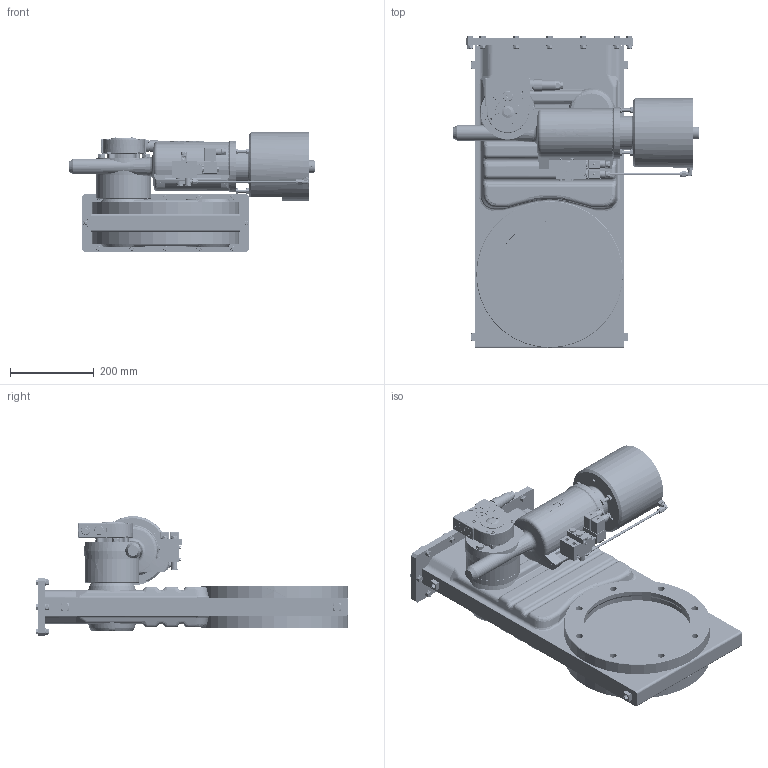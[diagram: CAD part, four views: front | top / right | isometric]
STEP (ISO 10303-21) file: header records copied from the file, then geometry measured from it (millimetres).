
FILE_DESCRIPTION(/* description */ (''),/* implementation_level */ '2;1');
FILE_NAME(/* name */ '1555510080_203.stp',/* time_stamp */ '2024-06-25T17:21:26+02:00',/* author */ (''),/* organization */ (''),/* preprocessor_version */ 'ST-DEVELOPER v19.3',/* originating_system */ 'SIEMENS PLM Software NX2212.6000',/* authorisation */ '');
FILE_SCHEMA (('AP203_CONFIGURATION_CONTROLLED_3D_DESIGN_OF_MECHANICAL_PARTS_AND_ASSEMBLIES_MIM_LF { 1 0 10303 403 2 1 2}'));
Products named in the file (67): 224477.6; 224476.6; 224474.6; 224478.5; 1009931; 467863; 467864; N-7501-501_1.2; N-7501-501_2.2; 224478_2.2_37153ID; N-6091-458.1; 224478_1.2; 50054-01.1; 50058-01.2; 50054-01.1_37155ID; 326349.1; N-6029-102.1; 60538-01_2.1; 60538-01.1; N-6029-112.1; N-6016-123.1; 60539-01.1; 60532-01_1.2; N-8504-102.3; N-6027-015.3; n-8504-002; N-6289-133.2; N-6203-417.1; N-6203-105.1; N-6005-474.1; N-6072-440.1; 230594.2; N-6001-499.1; 230595.2; 226273.1; 230591.1; 230750.3; n-6162-406; N-6039-010.1; N-6051-011.1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
Assembly tree (157 placements, depth 4):
  1053062
    83586-R1_1.5
      N-6036-003.1  x2
      37324-05.1
      n-7016-010  x4
      N-7501-501.4_NX-ARRAGMNTKONFIG1  x2
        N-7501-501_2.2
        N-7501-501_1.2
      n-7612-031
      n-7635-310
      n-8501-300_NX-ARRAGMNTArrangement 1  x2
        467864
        467863
        1009931
      48742-01.1
      N-5062-003.1  x2
      N-6016-152.1  x2
      N-7618-010.2
      N-6160-011.1  x2
      N-7015-015.2  x4
      N-6051-011.1  x2
      N-6039-010.1
    230600_2.3
      n-6162-406  x8
      230750.3
      230591.1
      226273.1
      230595.2
      N-6001-499.1  x3
      230594.2
      N-6072-440.1
      N-6005-474.1  x8
      N-6053-412.2  x3
      N-6203-105.1
      N-6203-417.1
    60550-R1_2.2
      N-6289-133.2
      n-8504-002
      N-6027-015.3  x2
      N-8504-102.3
      60532-01_1.2  x2
      60539-01.1
      N-6016-123.1  x4
      N-6029-112.1  x2
      60538-01.1
      60538-01_2.1
      N-6029-102.1  x2
    N-5021-497.1  x12
    N-6053-412.2  x12
    50049-r1.7
      326349.1  x4
      50054-01.1_37155ID
      50058-01.2
      50054-01.1
      224478_1.2
      N-6091-458.1  x2
      224478_2.2_37153ID
      224482.8
        224478.5  x2
        224474.6
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Bounding box: 587.15 x 746.4 x 285.85 mm (x, y, z)
Volume: 12103864.8 mm3; surface area: 3902430 mm2
Topology: 227 solids, 227 shells, 5169 faces, 11965 edges, 7522 vertices
Faces by surface type: plane 2580, cylinder 1627, cone 447, bspline 365, torus 77, extrusion 38, sphere 35
Full cylindrical faces by diameter (mm): 1.5 x7, 1.6 x2, 1.66 x7, 1.8 x10, 2 x24, 2.2 x2, 2.25 x20, 2.45 x20, 2.55 x4, 2.657 x1, 2.9 x4, 3 x15, 3.025 x8, 3.07 x12, 3.2 x8, 3.251 x1, 3.26 x4, 3.28 x8, 3.3 x12, 3.4 x4, 3.6 x2, 3.8 x1, 3.85 x4, 4 x20, 4.16 x3, 4.2 x5, 4.4 x4, 4.5 x3, 4.55 x8, 4.9 x2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
Entity records: 128323 total; most frequent: CARTESIAN_POINT 49707, DIRECTION 14033, ORIENTED_EDGE 13472, EDGE_CURVE 6736, AXIS2_PLACEMENT_3D 5437, VERTEX_POINT 4701, EDGE_LOOP 4497, ADVANCED_FACE 3204
